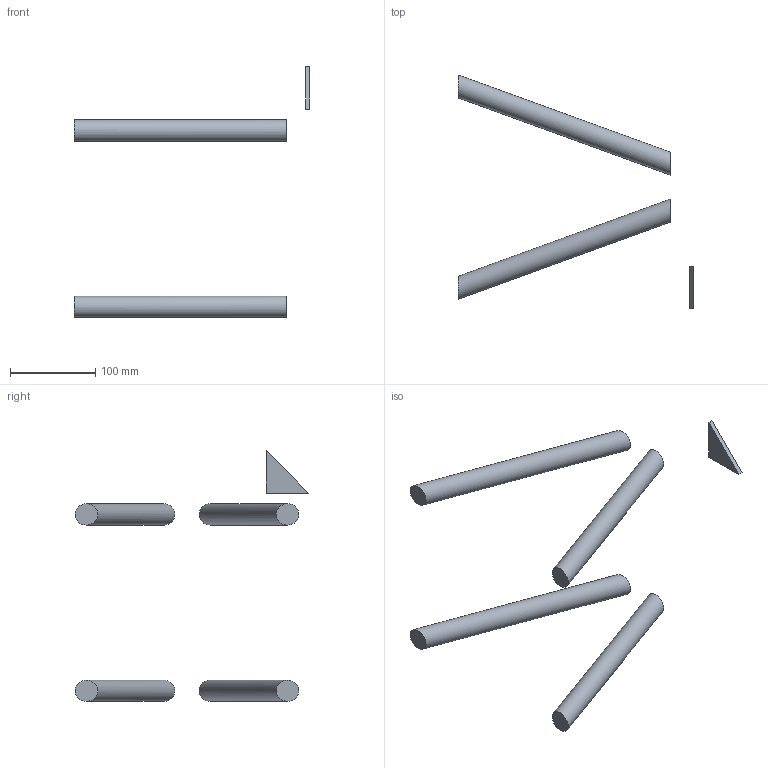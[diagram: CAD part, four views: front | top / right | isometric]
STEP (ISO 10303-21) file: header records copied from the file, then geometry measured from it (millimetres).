
FILE_DESCRIPTION(/* description */ (''),/* implementation_level */ '2;1');
FILE_NAME(/* name */ 'M:\Symbolen_NIEUW\STP\Corners\S36R\S36R-C013_111100012.stp',/* time_stamp */ '2017-11-30T14:22:41+01:00',/* author */ ('Kees'),/* organization */ (''),/* preprocessor_version */ 'ST-DEVELOPER v16.13',/* originating_system */ 'Autodesk Inventor 2018',/* authorisation */ '');
FILE_SCHEMA (('AUTOMOTIVE_DESIGN { 1 0 10303 214 3 1 1 }'));
Length unit declared in the file: millimetre
Products named in the file (1): 260031381
Bounding box: 276.5 x 274.66 x 294.5 mm (x, y, z)
Volume: 526537.2 mm3; surface area: 90778.5 mm2
Topology: 5 solids, 5 shells, 19 faces, 30 edges, 21 vertices
Faces by surface type: plane 15, cylinder 4
Full cylindrical faces by diameter (mm): 25 x4
Entity records: 449 total; most frequent: DIRECTION 70, CARTESIAN_POINT 59, ORIENTED_EDGE 44, AXIS2_PLACEMENT_3D 28, STYLED_ITEM 24, EDGE_LOOP 23, EDGE_CURVE 22, FACE_OUTER_BOUND 19
